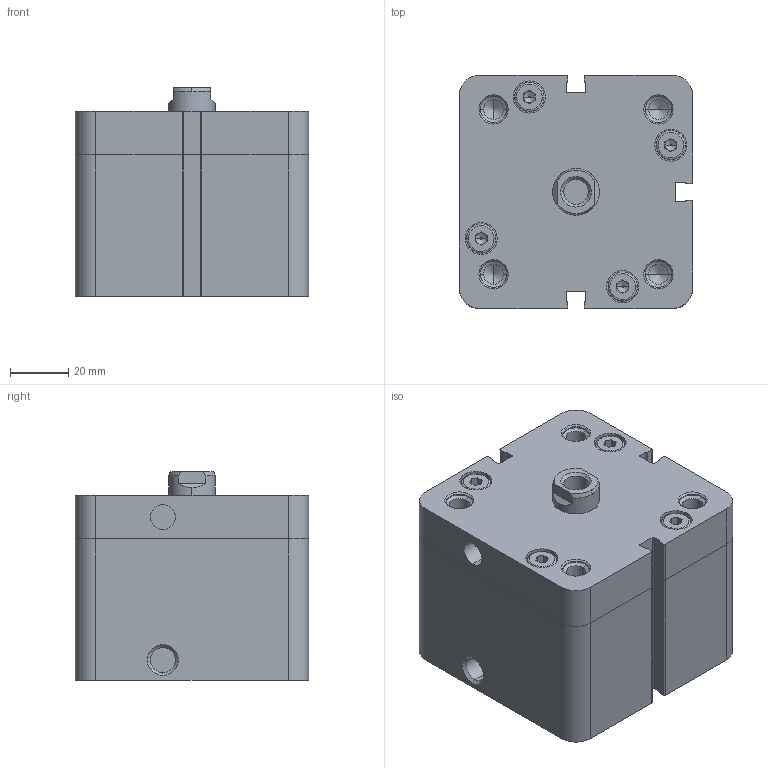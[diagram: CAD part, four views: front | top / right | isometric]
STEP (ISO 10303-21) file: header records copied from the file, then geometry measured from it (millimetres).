
FILE_DESCRIPTION (( 'STEP AP214' ), '1' );
FILE_NAME ('WINC-063-0015 (MDMY).STEP', '2017-12-22T09:14:23', ( 'Hidtek' ), ( '' ), 'SwSTEP 2.0', 'SolidWorks 2016', '' );
FILE_SCHEMA (( 'AUTOMOTIVE_DESIGN' ));
Length unit declared in the file: millimetre
Products named in the file (3): WINC-063-0015 (MDMY); Group2^WINC-063-0015 (MDMY); Group1^WINC-063-0015 (MDMY)
Assembly tree (2 placements, depth 2):
  WINC-063-0015 (MDMY)
    Group1^WINC-063-0015 (MDMY)
    Group2^WINC-063-0015 (MDMY)
Bounding box: 80 x 80 x 71.6 mm (x, y, z)
Volume: 340443 mm3; surface area: 70441.5 mm2
Topology: 7 solids, 7 shells, 400 faces, 1013 edges, 638 vertices
Faces by surface type: plane 215, cylinder 110, cone 55, bspline 20
Entity records: 13611 total; most frequent: CARTESIAN_POINT 2636, DIRECTION 2015, ORIENTED_EDGE 1994, EDGE_CURVE 997, AXIS2_PLACEMENT_3D 673, VECTOR 669, LINE 669, VERTEX_POINT 638
